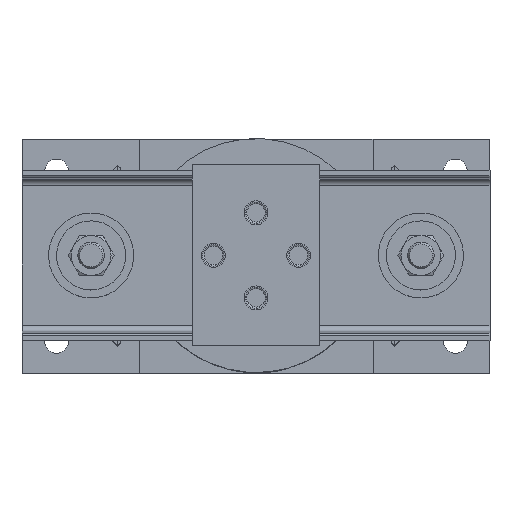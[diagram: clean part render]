
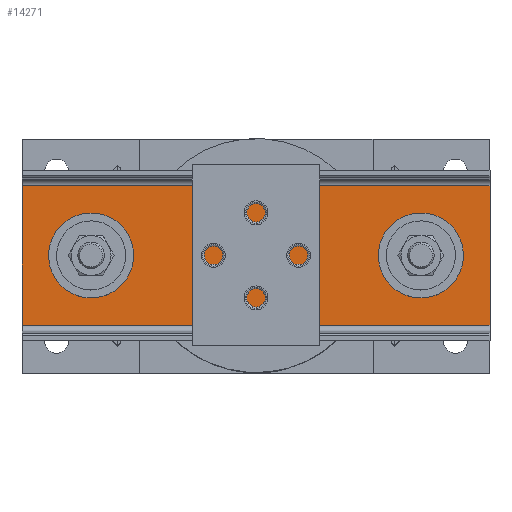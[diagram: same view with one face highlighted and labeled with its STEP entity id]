
A CAD part, top view. The second image highlights one B-rep face of the part: STEP entity #14271.
In plain terms, the highlighted planar face has unit normal (0, 0, 1).
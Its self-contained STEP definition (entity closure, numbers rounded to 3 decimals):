
#1920=FACE_BOUND('',#3630,.T.);
#1921=FACE_BOUND('',#3631,.T.);
#1922=FACE_BOUND('',#3632,.T.);
#2125=CIRCLE('',#15370,0.188);
#2127=CIRCLE('',#15373,1.125);
#2129=CIRCLE('',#15376,1.125);
#2582=FACE_OUTER_BOUND('',#3629,.T.);
#3629=EDGE_LOOP('',(#9380,#9381,#9382,#9383));
#3630=EDGE_LOOP('',(#9384));
#3631=EDGE_LOOP('',(#9385));
#3632=EDGE_LOOP('',(#9386));
#4729=LINE('',#18700,#5230);
#4753=LINE('',#18759,#5254);
#4754=LINE('',#18762,#5255);
#4755=LINE('',#18763,#5256);
#5230=VECTOR('',#16587,22.);
#5254=VECTOR('',#16641,22.);
#5255=VECTOR('',#16646,6.572);
#5256=VECTOR('',#16647,6.572);
#5745=VERTEX_POINT('',#18680);
#5747=VERTEX_POINT('',#18685);
#5749=VERTEX_POINT('',#18690);
#5750=VERTEX_POINT('',#18693);
#5753=VERTEX_POINT('',#18698);
#5772=VERTEX_POINT('',#18756);
#5773=VERTEX_POINT('',#18758);
#7019=EDGE_CURVE('',#5745,#5745,#2125,.T.);
#7021=EDGE_CURVE('',#5747,#5747,#2127,.T.);
#7023=EDGE_CURVE('',#5749,#5749,#2129,.T.);
#7027=EDGE_CURVE('',#5753,#5750,#4729,.T.);
#7056=EDGE_CURVE('',#5773,#5772,#4753,.T.);
#7058=EDGE_CURVE('',#5772,#5750,#4754,.T.);
#7059=EDGE_CURVE('',#5773,#5753,#4755,.T.);
#9380=ORIENTED_EDGE('',*,*,#7058,.T.);
#9381=ORIENTED_EDGE('',*,*,#7027,.F.);
#9382=ORIENTED_EDGE('',*,*,#7059,.F.);
#9383=ORIENTED_EDGE('',*,*,#7056,.T.);
#9384=ORIENTED_EDGE('',*,*,#7019,.T.);
#9385=ORIENTED_EDGE('',*,*,#7021,.T.);
#9386=ORIENTED_EDGE('',*,*,#7023,.T.);
#12908=PLANE('',#15396);
#14271=ADVANCED_FACE('',(#2582,#1920,#1921,#1922),#12908,.T.);
#15370=AXIS2_PLACEMENT_3D('',#18681,#16566,#16567);
#15373=AXIS2_PLACEMENT_3D('',#18686,#16572,#16573);
#15376=AXIS2_PLACEMENT_3D('',#18691,#16578,#16579);
#15396=AXIS2_PLACEMENT_3D('',#18761,#16644,#16645);
#16566=DIRECTION('center_axis',(0.,0.,
-1.));
#16567=DIRECTION('ref_axis',(1.,0.,0.));
#16572=DIRECTION('center_axis',(0.,0.,
-1.));
#16573=DIRECTION('ref_axis',(1.,0.,0.));
#16578=DIRECTION('center_axis',(0.,0.,
-1.));
#16579=DIRECTION('ref_axis',(1.,0.,0.));
#16587=DIRECTION('',(-1.,0.,0.));
#16641=DIRECTION('',(-1.,0.,0.));
#16644=DIRECTION('center_axis',(0.,0.,
1.));
#16645=DIRECTION('ref_axis',(1.,0.,0.));
#16646=DIRECTION('',(0.,-1.,0.));
#16647=DIRECTION('',(0.,-1.,0.));
#18680=CARTESIAN_POINT('',(0.187,0.,21.21));
#18681=CARTESIAN_POINT('Origin',(0.,0.,
21.21));
#18685=CARTESIAN_POINT('',(8.875,0.,21.21));
#18686=CARTESIAN_POINT('Origin',(7.75,0.,
21.21));
#18690=CARTESIAN_POINT('',(-6.625,0.,21.21));
#18691=CARTESIAN_POINT('Origin',(-7.75,0.,
21.21));
#18693=CARTESIAN_POINT('',(-11.,-3.286,21.21));
#18698=CARTESIAN_POINT('',(11.,-3.286,21.21));
#18700=CARTESIAN_POINT('',(11.,-3.286,21.21));
#18756=CARTESIAN_POINT('',(-11.,3.286,21.21));
#18758=CARTESIAN_POINT('',(11.,3.286,21.21));
#18759=CARTESIAN_POINT('',(11.,3.286,21.21));
#18761=CARTESIAN_POINT('Origin',(11.,0.,21.21));
#18762=CARTESIAN_POINT('',(-11.,0.,21.21));
#18763=CARTESIAN_POINT('',(11.,0.,21.21));
